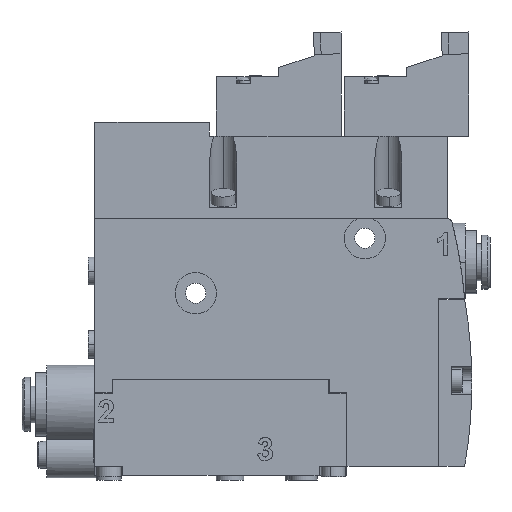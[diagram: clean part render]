
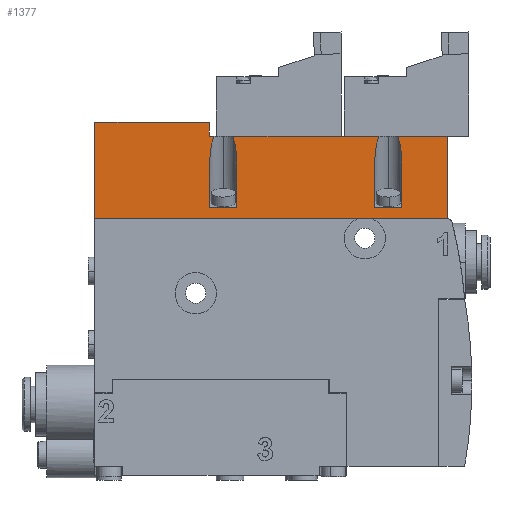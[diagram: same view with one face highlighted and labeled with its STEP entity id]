
A CAD part, front view. The second image highlights one B-rep face of the part: STEP entity #1377.
In plain terms, the highlighted planar face has unit normal (0, -1, 0).
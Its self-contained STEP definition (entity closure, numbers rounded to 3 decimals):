
#1377=ADVANCED_FACE('NONE',(#3204),#3205,.F.);
#3204=FACE_OUTER_BOUND('',#5871,.T.);
#3205=PLANE('',#5872);
#5871=EDGE_LOOP('',(#11251,#11252,#11253,#11254,#11255,#11256,#11257,#11258,#11259,#11260,#11261,#11262,#11263,#11264,#11265,#11266,#11267,#11268));
#5872=AXIS2_PLACEMENT_3D('',#11269,#11270,#11271);
#11251=ORIENTED_EDGE('',*,*,#15949,.T.);
#11252=ORIENTED_EDGE('',*,*,#15950,.T.);
#11253=ORIENTED_EDGE('',*,*,#15951,.T.);
#11254=ORIENTED_EDGE('',*,*,#15952,.T.);
#11255=ORIENTED_EDGE('',*,*,#15953,.T.);
#11256=ORIENTED_EDGE('',*,*,#15882,.T.);
#11257=ORIENTED_EDGE('',*,*,#15954,.T.);
#11258=ORIENTED_EDGE('',*,*,#15933,.F.);
#11259=ORIENTED_EDGE('',*,*,#15955,.F.);
#11260=ORIENTED_EDGE('',*,*,#15956,.T.);
#11261=ORIENTED_EDGE('',*,*,#15957,.T.);
#11262=ORIENTED_EDGE('',*,*,#15888,.T.);
#11263=ORIENTED_EDGE('',*,*,#15958,.T.);
#11264=ORIENTED_EDGE('',*,*,#15921,.F.);
#11265=ORIENTED_EDGE('',*,*,#15959,.F.);
#11266=ORIENTED_EDGE('',*,*,#15960,.T.);
#11267=ORIENTED_EDGE('',*,*,#15961,.T.);
#11268=ORIENTED_EDGE('',*,*,#15962,.F.);
#11269=CARTESIAN_POINT('',(0.,0.,18.0));
#11270=DIRECTION('',(0.,1.0,0.));
#11271=DIRECTION('',(1.0,0.0,0.));
#15882=EDGE_CURVE('NONE',#18860,#18866,#18868,.T.);
#15888=EDGE_CURVE('NONE',#18871,#18877,#18879,.T.);
#15921=EDGE_CURVE('NONE',#18928,#18930,#18931,.T.);
#15933=EDGE_CURVE('NONE',#18943,#18945,#18946,.T.);
#15949=EDGE_CURVE('NONE',#18968,#18969,#18970,.T.);
#15950=EDGE_CURVE('NONE',#18969,#18971,#18972,.T.);
#15951=EDGE_CURVE('NONE',#18971,#18973,#18974,.T.);
#15952=EDGE_CURVE('NONE',#18973,#18975,#18976,.T.);
#15953=EDGE_CURVE('NONE',#18975,#18860,#18977,.T.);
#15954=EDGE_CURVE('NONE',#18866,#18945,#18978,.T.);
#15955=EDGE_CURVE('NONE',#18979,#18943,#18980,.T.);
#15956=EDGE_CURVE('NONE',#18979,#18981,#18982,.T.);
#15957=EDGE_CURVE('NONE',#18981,#18871,#18983,.T.);
#15958=EDGE_CURVE('NONE',#18877,#18930,#18984,.T.);
#15959=EDGE_CURVE('NONE',#18985,#18928,#18986,.T.);
#15960=EDGE_CURVE('NONE',#18985,#18987,#18988,.T.);
#15961=EDGE_CURVE('NONE',#18987,#18989,#18990,.T.);
#15962=EDGE_CURVE('NONE',#18968,#18989,#18991,.T.);
#18860=VERTEX_POINT('NONE',#23382);
#18866=VERTEX_POINT('NONE',#23399);
#18868=(B_SPLINE_CURVE(3,(#23403,#23404,#23405,#23406),.UNSPECIFIED.,.F.,.F.)B_SPLINE_CURVE_WITH_KNOTS((4,4),(3.91,4.712),.UNSPECIFIED.)RATIONAL_B_SPLINE_CURVE((1.0,0.947,0.947,1.0))BOUNDED_CURVE()REPRESENTATION_ITEM('')GEOMETRIC_REPRESENTATION_ITEM()CURVE());
#18871=VERTEX_POINT('NONE',#23415);
#18877=VERTEX_POINT('NONE',#23432);
#18879=(B_SPLINE_CURVE(3,(#23436,#23437,#23438,#23439),.UNSPECIFIED.,.F.,.F.)B_SPLINE_CURVE_WITH_KNOTS((4,4),(3.91,4.712),.UNSPECIFIED.)RATIONAL_B_SPLINE_CURVE((1.0,0.947,0.947,1.0))BOUNDED_CURVE()REPRESENTATION_ITEM('')GEOMETRIC_REPRESENTATION_ITEM()CURVE());
#18928=VERTEX_POINT('NONE',#23522);
#18930=VERTEX_POINT('NONE',#23525);
#18931=LINE('',#23526,#23527);
#18943=VERTEX_POINT('NONE',#23540);
#18945=VERTEX_POINT('NONE',#23543);
#18946=LINE('',#23544,#23545);
#18968=VERTEX_POINT('NONE',#23574);
#18969=VERTEX_POINT('NONE',#23575);
#18970=LINE('',#23576,#23577);
#18971=VERTEX_POINT('NONE',#23578);
#18972=LINE('',#23579,#23580);
#18973=VERTEX_POINT('NONE',#23581);
#18974=LINE('',#23582,#23583);
#18975=VERTEX_POINT('NONE',#23584);
#18976=LINE('',#23585,#23586);
#18977=LINE('',#23587,#23588);
#18978=LINE('',#23589,#23590);
#18979=VERTEX_POINT('NONE',#23591);
#18980=LINE('',#23592,#23593);
#18981=VERTEX_POINT('NONE',#23594);
#18982=(B_SPLINE_CURVE(3,(#23596,#23597,#23598,#23599),.UNSPECIFIED.,.F.,.F.)B_SPLINE_CURVE_WITH_KNOTS((4,4),(1.571,2.373),.UNSPECIFIED.)RATIONAL_B_SPLINE_CURVE((1.0,0.947,0.947,1.0))BOUNDED_CURVE()REPRESENTATION_ITEM('')GEOMETRIC_REPRESENTATION_ITEM()CURVE());
#18983=LINE('',#23606,#23607);
#18984=LINE('',#23608,#23609);
#18985=VERTEX_POINT('NONE',#23610);
#18986=LINE('',#23611,#23612);
#18987=VERTEX_POINT('NONE',#23613);
#18988=(B_SPLINE_CURVE(3,(#23615,#23616,#23617,#23618),.UNSPECIFIED.,.F.,.F.)B_SPLINE_CURVE_WITH_KNOTS((4,4),(1.571,2.373),.UNSPECIFIED.)RATIONAL_B_SPLINE_CURVE((1.0,0.947,0.947,1.0))BOUNDED_CURVE()REPRESENTATION_ITEM('')GEOMETRIC_REPRESENTATION_ITEM()CURVE());
#18989=VERTEX_POINT('NONE',#23625);
#18990=LINE('',#23626,#23627);
#18991=LINE('',#23628,#23629);
#23382=CARTESIAN_POINT('',(66.086,0.,18.0));
#23399=CARTESIAN_POINT('',(67.0,0.,11.695));
#23403=CARTESIAN_POINT('',(66.086,0.,18.0));
#23404=CARTESIAN_POINT('',(66.678,0.,16.324));
#23405=CARTESIAN_POINT('',(67.0,0.,14.105));
#23406=CARTESIAN_POINT('',(67.0,0.,11.695));
#23415=CARTESIAN_POINT('',(30.086,0.,18.0));
#23432=CARTESIAN_POINT('',(31.0,0.,11.695));
#23436=CARTESIAN_POINT('',(30.086,0.,18.0));
#23437=CARTESIAN_POINT('',(30.678,0.,16.324));
#23438=CARTESIAN_POINT('',(31.0,0.,14.105));
#23439=CARTESIAN_POINT('',(31.0,0.,11.695));
#23522=CARTESIAN_POINT('',(25.0,0.,2.394));
#23525=CARTESIAN_POINT('',(31.0,0.,2.394));
#23526=CARTESIAN_POINT('',(0.,0.,2.394));
#23527=VECTOR('',#28994,1000.0);
#23540=CARTESIAN_POINT('',(61.0,0.,2.394));
#23543=CARTESIAN_POINT('',(67.0,0.,2.394));
#23544=CARTESIAN_POINT('',(0.,0.,2.394));
#23545=VECTOR('',#29012,1000.0);
#23574=CARTESIAN_POINT('',(25.0,0.,21.0));
#23575=CARTESIAN_POINT('',(0.,0.,21.0));
#23576=CARTESIAN_POINT('',(0.,0.,21.0));
#23577=VECTOR('',#29035,1000.0);
#23578=CARTESIAN_POINT('',(0.,0.,0.));
#23579=CARTESIAN_POINT('',(0.,0.,0.));
#23580=VECTOR('',#29036,1000.0);
#23581=CARTESIAN_POINT('',(77.0,0.,0.));
#23582=CARTESIAN_POINT('',(0.,0.,0.));
#23583=VECTOR('',#29037,1000.0);
#23584=CARTESIAN_POINT('',(77.0,0.,18.0));
#23585=CARTESIAN_POINT('',(77.0,0.,0.));
#23586=VECTOR('',#29038,1000.0);
#23587=CARTESIAN_POINT('',(0.,0.,18.0));
#23588=VECTOR('',#29039,1000.0);
#23589=CARTESIAN_POINT('',(67.0,0.,18.0));
#23590=VECTOR('',#29040,1000.0);
#23591=CARTESIAN_POINT('',(61.0,0.,11.695));
#23592=CARTESIAN_POINT('',(61.0,0.,18.0));
#23593=VECTOR('',#29041,1000.0);
#23594=CARTESIAN_POINT('',(61.914,0.,18.0));
#23596=CARTESIAN_POINT('',(61.0,0.,11.695));
#23597=CARTESIAN_POINT('',(61.0,0.,14.105));
#23598=CARTESIAN_POINT('',(61.322,0.,16.324));
#23599=CARTESIAN_POINT('',(61.914,0.,18.0));
#23606=CARTESIAN_POINT('',(0.,0.,18.0));
#23607=VECTOR('',#29042,1000.0);
#23608=CARTESIAN_POINT('',(31.0,0.,18.0));
#23609=VECTOR('',#29043,1000.0);
#23610=CARTESIAN_POINT('',(25.0,0.,11.695));
#23611=CARTESIAN_POINT('',(25.0,0.,18.0));
#23612=VECTOR('',#29044,1000.0);
#23613=CARTESIAN_POINT('',(25.914,0.,18.0));
#23615=CARTESIAN_POINT('',(25.0,0.,11.695));
#23616=CARTESIAN_POINT('',(25.0,0.,14.105));
#23617=CARTESIAN_POINT('',(25.322,0.,16.324));
#23618=CARTESIAN_POINT('',(25.914,0.,18.0));
#23625=CARTESIAN_POINT('',(25.0,0.,18.0));
#23626=CARTESIAN_POINT('',(0.,0.,18.0));
#23627=VECTOR('',#29045,1000.0);
#23628=CARTESIAN_POINT('',(25.0,0.,21.0));
#23629=VECTOR('',#29046,1000.0);
#28994=DIRECTION('',(1.0,0.,0.));
#29012=DIRECTION('',(1.0,0.,0.));
#29035=DIRECTION('',(-1.0,0.,0.));
#29036=DIRECTION('',(0.,0.,-1.0));
#29037=DIRECTION('',(1.0,0.,0.));
#29038=DIRECTION('',(0.,0.,1.0));
#29039=DIRECTION('',(-1.0,0.,0.));
#29040=DIRECTION('',(0.,0.,-1.0));
#29041=DIRECTION('',(0.,0.,-1.0));
#29042=DIRECTION('',(-1.0,0.,0.));
#29043=DIRECTION('',(0.,0.,-1.0));
#29044=DIRECTION('',(0.,0.,-1.0));
#29045=DIRECTION('',(-1.0,0.,0.));
#29046=DIRECTION('',(0.,0.,-1.0));
